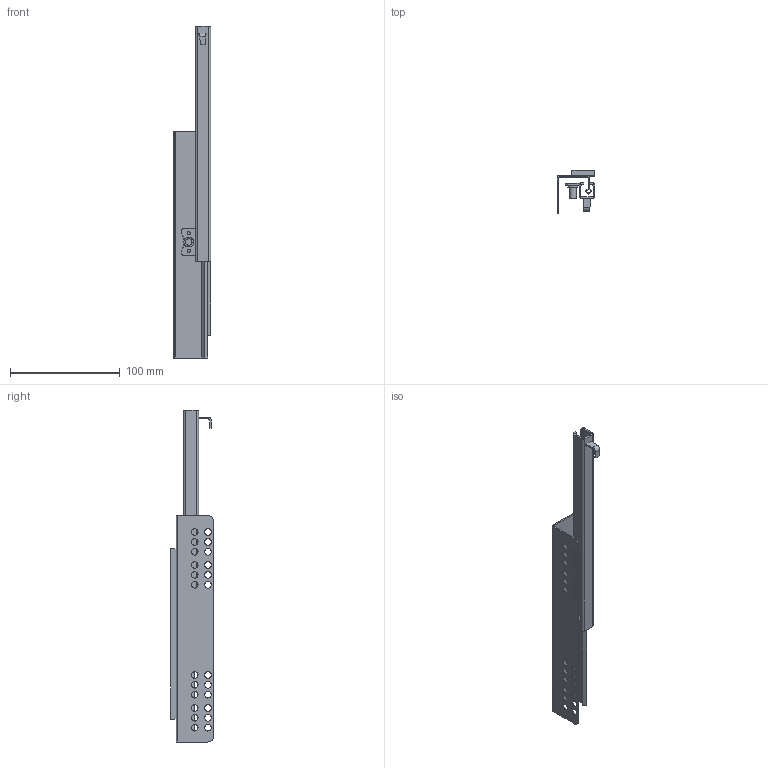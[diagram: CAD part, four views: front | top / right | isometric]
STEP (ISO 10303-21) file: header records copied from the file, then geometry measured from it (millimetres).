
FILE_DESCRIPTION(/* description */ (''),/* implementation_level */ '2;1');
FILE_NAME(/* name */ 'C:\Users\dmitruk\Documents\WORK\НАПРАВЛЯЮЩИЕ\Скрытого монтажаНаправляющая cкрытого насадного монтажа 3-4 Q-Type\Направляющая cкрытого насадного монтажа 3-4 Q-Type_P\Направляющая cкрытого насадного монтажа 3-4 Q-Type-300 L.stp',/* time_stamp */ '2020-07-27T14:54:16+03:00',/* author */ ('dmitruk'),/* organization */ (''),/* preprocessor_version */ 'ST-DEVELOPER v16.5',/* originating_system */ 'Autodesk Inventor 2017',/* authorisation */ '');
FILE_SCHEMA (('AUTOMOTIVE_DESIGN { 1 0 10303 214 3 1 1 }'));
Length unit declared in the file: millimetre
Products named in the file (1): Направляющая c\X2\043A0440
044B0442043E0433043E\X0\ насадного 
монтажа 3-4 Q-Type-300 L
Bounding box: 34 x 39 x 302 mm (x, y, z)
Volume: 46711.2 mm3; surface area: 57120.2 mm2
Topology: 2 solids, 2 shells, 108 faces, 288 edges, 188 vertices
Faces by surface type: plane 60, cylinder 46, bspline 2
Full cylindrical faces by diameter (mm): 3 x2, 6 x25, 9 x1
Entity records: 3401 total; most frequent: CARTESIAN_POINT 617, DIRECTION 564, ORIENTED_EDGE 518, EDGE_CURVE 259, AXIS2_PLACEMENT_3D 202, EDGE_LOOP 194, VERTEX_POINT 187, LINE 160
